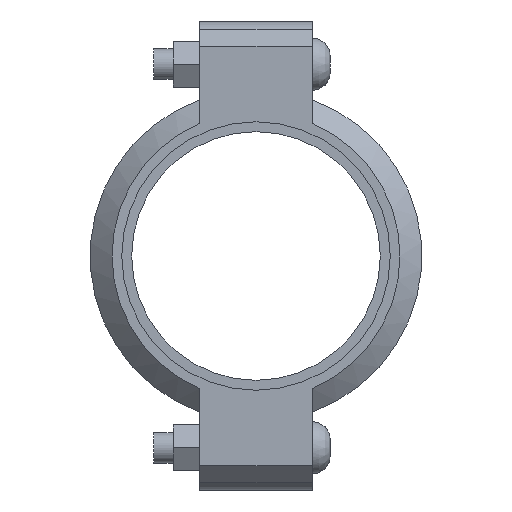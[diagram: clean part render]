
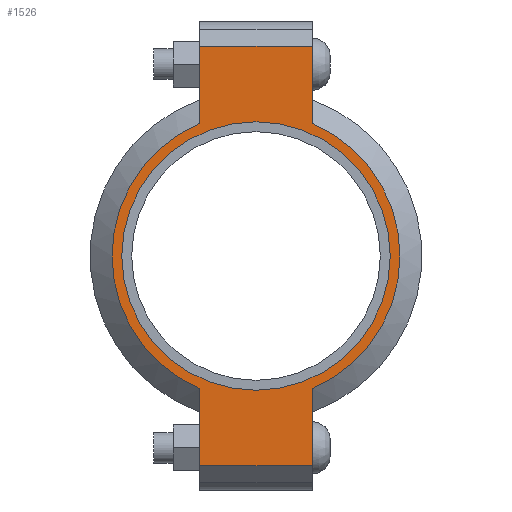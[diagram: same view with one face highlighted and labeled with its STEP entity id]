
A CAD part, left-side view. The second image highlights one B-rep face of the part: STEP entity #1526.
In plain terms, the highlighted planar face has unit normal (-1, 0, 0) as drawn and (0, 0, 1) by its records, which use the part's own axes.
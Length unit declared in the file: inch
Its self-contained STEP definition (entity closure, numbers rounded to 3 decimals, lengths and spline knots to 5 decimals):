
#150=LINE('',#2663,#243);
#158=LINE('',#2699,#251);
#165=LINE('',#2720,#258);
#174=LINE('',#2752,#267);
#175=LINE('',#2756,#268);
#176=LINE('',#2758,#269);
#243=VECTOR('',#2175,0.3937);
#251=VECTOR('',#2191,0.3937);
#258=VECTOR('',#2210,0.3937);
#267=VECTOR('',#2235,0.3937);
#268=VECTOR('',#2240,0.3937);
#269=VECTOR('',#2241,0.3937);
#325=FACE_BOUND('',#503,.T.);
#397=FACE_OUTER_BOUND('',#502,.T.);
#502=EDGE_LOOP('',(#1267,#1268,#1269,#1270,#1271,#1272,#1273,#1274));
#503=EDGE_LOOP('',(#1275));
#575=CIRCLE('',#1745,2.75);
#601=CIRCLE('',#1804,2.95);
#602=CIRCLE('',#1805,2.95);
#667=VERTEX_POINT('',#2479);
#710=VERTEX_POINT('',#2660);
#711=VERTEX_POINT('',#2662);
#722=VERTEX_POINT('',#2694);
#723=VERTEX_POINT('',#2698);
#730=VERTEX_POINT('',#2717);
#731=VERTEX_POINT('',#2719);
#741=VERTEX_POINT('',#2755);
#742=VERTEX_POINT('',#2757);
#823=EDGE_CURVE('',#667,#667,#575,.T.);
#884=EDGE_CURVE('',#711,#710,#150,.T.);
#898=EDGE_CURVE('',#723,#722,#158,.T.);
#908=EDGE_CURVE('',#731,#730,#165,.T.);
#923=EDGE_CURVE('',#723,#710,#174,.T.);
#924=EDGE_CURVE('',#722,#731,#601,.T.);
#925=EDGE_CURVE('',#741,#730,#175,.T.);
#926=EDGE_CURVE('',#741,#742,#176,.T.);
#927=EDGE_CURVE('',#742,#711,#602,.T.);
#1267=ORIENTED_EDGE('',*,*,#923,.F.);
#1268=ORIENTED_EDGE('',*,*,#898,.T.);
#1269=ORIENTED_EDGE('',*,*,#924,.T.);
#1270=ORIENTED_EDGE('',*,*,#908,.T.);
#1271=ORIENTED_EDGE('',*,*,#925,.F.);
#1272=ORIENTED_EDGE('',*,*,#926,.T.);
#1273=ORIENTED_EDGE('',*,*,#927,.T.);
#1274=ORIENTED_EDGE('',*,*,#884,.T.);
#1275=ORIENTED_EDGE('',*,*,#823,.T.);
#1368=PLANE('',#1803);
#1526=ADVANCED_FACE('',(#397,#325),#1368,.T.);
#1745=AXIS2_PLACEMENT_3D('',#2481,#2051,#2052);
#1803=AXIS2_PLACEMENT_3D('',#2753,#2236,#2237);
#1804=AXIS2_PLACEMENT_3D('',#2754,#2238,#2239);
#1805=AXIS2_PLACEMENT_3D('',#2759,#2242,#2243);
#2051=DIRECTION('center_axis',(0.,0.,-1.));
#2052=DIRECTION('ref_axis',(-1.,0.,0.));
#2175=DIRECTION('',(-1.,0.,0.));
#2191=DIRECTION('',(1.,0.,0.));
#2210=DIRECTION('',(1.,0.,0.));
#2235=DIRECTION('',(0.,1.,0.));
#2236=DIRECTION('center_axis',(0.,0.,1.));
#2237=DIRECTION('ref_axis',(1.,0.,0.));
#2238=DIRECTION('center_axis',(0.,0.,1.));
#2239=DIRECTION('ref_axis',(-1.,0.,0.));
#2240=DIRECTION('',(0.,-1.,0.));
#2241=DIRECTION('',(-1.,0.,0.));
#2242=DIRECTION('center_axis',(0.,0.,1.));
#2243=DIRECTION('ref_axis',(-1.,0.,0.));
#2479=CARTESIAN_POINT('',(2.75,0.,1.065));
#2481=CARTESIAN_POINT('Origin',(0.,0.,1.065));
#2660=CARTESIAN_POINT('',(-4.295,1.15,1.065));
#2662=CARTESIAN_POINT('',(-2.71662,1.15,1.065));
#2663=CARTESIAN_POINT('',(-4.795,1.15,1.065));
#2694=CARTESIAN_POINT('',(-2.71662,-1.15,1.065));
#2698=CARTESIAN_POINT('',(-4.295,-1.15,1.065));
#2699=CARTESIAN_POINT('',(4.795,-1.15,1.065));
#2717=CARTESIAN_POINT('',(4.295,-1.15,1.065));
#2719=CARTESIAN_POINT('',(2.71662,-1.15,1.065));
#2720=CARTESIAN_POINT('',(4.795,-1.15,1.065));
#2752=CARTESIAN_POINT('',(-4.295,0.575,1.065));
#2753=CARTESIAN_POINT('Origin',(0.,0.,1.065));
#2754=CARTESIAN_POINT('Origin',(0.,0.,1.065));
#2755=CARTESIAN_POINT('',(4.295,1.15,1.065));
#2756=CARTESIAN_POINT('',(4.295,-0.575,1.065));
#2757=CARTESIAN_POINT('',(2.71662,1.15,1.065));
#2758=CARTESIAN_POINT('',(-4.795,1.15,1.065));
#2759=CARTESIAN_POINT('Origin',(0.,0.,1.065));
